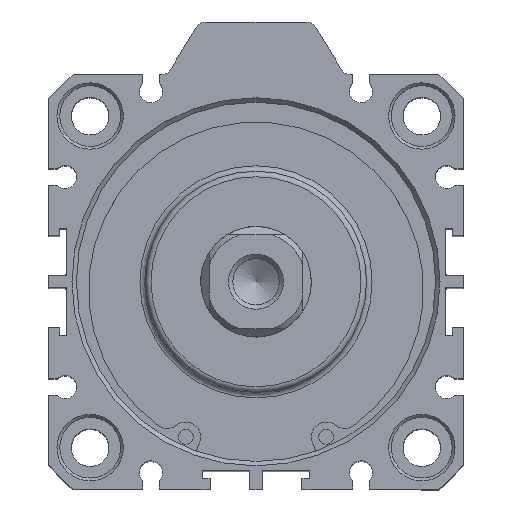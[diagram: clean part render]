
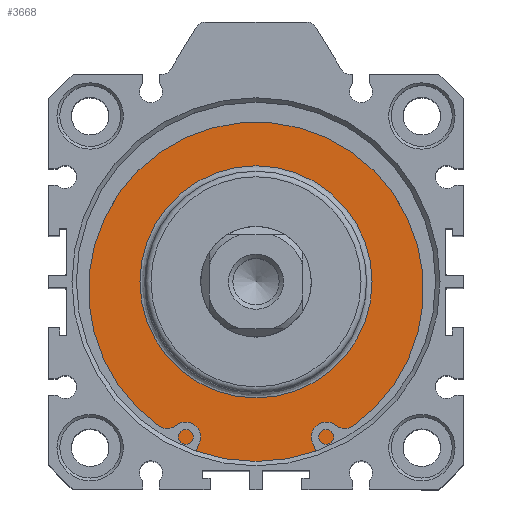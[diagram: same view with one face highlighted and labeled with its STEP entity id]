
A CAD part, top view. The second image highlights one B-rep face of the part: STEP entity #3668.
In plain terms, the highlighted planar face has unit normal (0, 0, 1).
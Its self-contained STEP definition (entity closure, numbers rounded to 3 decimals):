
#3617=CARTESIAN_POINT('',(0.359,19.684,87.3));
#3618=VERTEX_POINT('',#3617);
#3619=CARTESIAN_POINT('',(0.359,-1.316,87.3));
#3620=DIRECTION('',(0.0,0.0,1.0));
#3621=DIRECTION('',(0.0,-1.0,0.0));
#3622=AXIS2_PLACEMENT_3D('',#3619,#3620,#3621);
#3623=CIRCLE('',#3622,21.);
#3624=EDGE_CURVE('',#3618,#3618,#3623,.T.);
#3649=CARTESIAN_POINT('',(0.359,24.934,87.3));
#3650=DIRECTION('',(0.0,0.0,1.0));
#3651=DIRECTION('',(1.0,0.0,0.0));
#3652=AXIS2_PLACEMENT_3D('',#3649,#3650,#3651);
#3653=PLANE('',#3652);
#3654=CARTESIAN_POINT('',(0.359,31.184,87.3));
#3655=VERTEX_POINT('',#3654);
#3656=CARTESIAN_POINT('',(0.359,-1.316,87.3));
#3657=DIRECTION('',(0.0,0.0,-1.0));
#3658=DIRECTION('',(0.0,1.0,0.0));
#3659=AXIS2_PLACEMENT_3D('',#3656,#3657,#3658);
#3660=CIRCLE('',#3659,32.5);
#3661=EDGE_CURVE('',#3655,#3655,#3660,.T.);
#3662=ORIENTED_EDGE('',*,*,#3661,.F.);
#3663=EDGE_LOOP('',(#3662));
#3664=FACE_OUTER_BOUND('',#3663,.T.);
#3665=ORIENTED_EDGE('',*,*,#3624,.F.);
#3666=EDGE_LOOP('',(#3665));
#3667=FACE_BOUND('',#3666,.T.);
#3668=ADVANCED_FACE('',(#3664,#3667),#3653,.T.);
